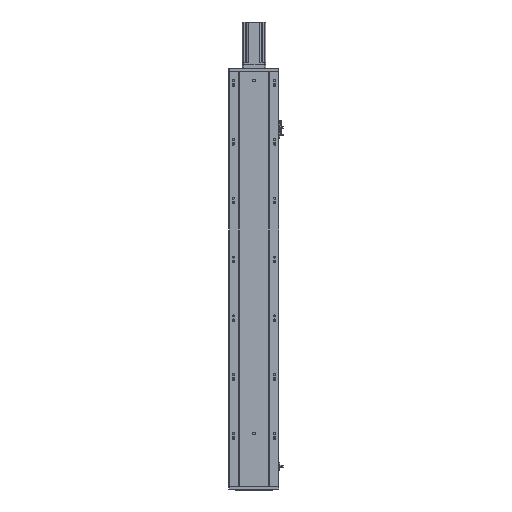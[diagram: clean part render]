
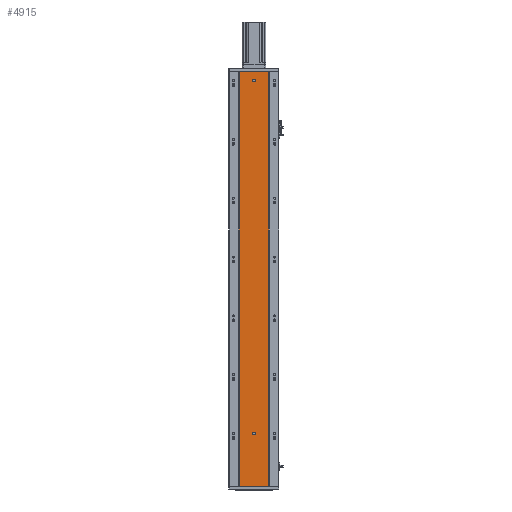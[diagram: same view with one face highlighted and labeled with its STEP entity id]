
A CAD part, front view. The second image highlights one B-rep face of the part: STEP entity #4915.
In plain terms, the highlighted planar face has unit normal (0, -1, 0).
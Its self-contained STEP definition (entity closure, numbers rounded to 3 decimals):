
#1491 = EDGE_LOOP ( 'NONE', ( #30294, #61104, #56211, #23470 ) ) ;
#2358 = CARTESIAN_POINT ( 'NONE',  ( 86.97, 79.476, 1410. ) ) ;
#3170 = CARTESIAN_POINT ( 'NONE',  ( 185.97, 79.476, 940. ) ) ;
#3449 = CARTESIAN_POINT ( 'NONE',  ( 185.97, 79.476, 0. ) ) ;
#3566 = DIRECTION ( 'NONE',  ( 0., 0., -1. ) ) ;
#4915 = ADVANCED_FACE ( 'NONE', ( #37954, #42282, #43208 ), #68679, .F. ) ;
#5900 = DIRECTION ( 'NONE',  ( 0., 0., -1. ) ) ;
#6257 = AXIS2_PLACEMENT_3D ( 'NONE', #9895, #15511, #3566 ) ;
#6622 = ORIENTED_EDGE ( 'NONE', *, *, #6762, .F. ) ;
#6762 = EDGE_CURVE ( 'NONE', #32205, #35933, #11453, .T. ) ;
#7969 = DIRECTION ( 'NONE',  ( 0., -1., 0. ) ) ;
#9002 = CARTESIAN_POINT ( 'NONE',  ( 185.97, 79.476, 0. ) ) ;
#9895 = CARTESIAN_POINT ( 'NONE',  ( 136.47, 79.476, 180. ) ) ;
#10873 = ORIENTED_EDGE ( 'NONE', *, *, #55780, .F. ) ;
#11453 = CIRCLE ( 'NONE', #11995, 4. ) ;
#11995 = AXIS2_PLACEMENT_3D ( 'NONE', #22204, #7969, #63220 ) ;
#12200 = CARTESIAN_POINT ( 'NONE',  ( 0., 79.476, 1410. ) ) ;
#12285 = AXIS2_PLACEMENT_3D ( 'NONE', #17175, #39685, #5900 ) ;
#13099 = CARTESIAN_POINT ( 'NONE',  ( 86.97, 79.476, 940. ) ) ;
#15511 = DIRECTION ( 'NONE',  ( 0., -1., 0. ) ) ;
#16515 = LINE ( 'NONE', #53226, #52361 ) ;
#17175 = CARTESIAN_POINT ( 'NONE',  ( 136.47, 79.476, 1380. ) ) ;
#18789 = EDGE_CURVE ( 'NONE', #66357, #30749, #23784, .T. ) ;
#19791 = VERTEX_POINT ( 'NONE', #67027 ) ;
#22204 = CARTESIAN_POINT ( 'NONE',  ( 136.47, 79.476, 1380. ) ) ;
#22939 = EDGE_LOOP ( 'NONE', ( #6622, #10873 ) ) ;
#22972 = EDGE_LOOP ( 'NONE', ( #61878, #65589 ) ) ;
#23470 = ORIENTED_EDGE ( 'NONE', *, *, #18789, .T. ) ;
#23784 = B_SPLINE_CURVE_WITH_KNOTS ( 'NONE', 3,
 ( #2358, #13099, #35362, #69807 ),
 .UNSPECIFIED., .F., .F.,
 ( 4, 4 ),
 ( 0., 1. ),
 .UNSPECIFIED. ) ;
#24857 = VECTOR ( 'NONE', #60654, 1000. ) ;
#24907 = DIRECTION ( 'NONE',  ( 1., 0., 0. ) ) ;
#26768 = DIRECTION ( 'NONE',  ( 0., -1., 0. ) ) ;
#30294 = ORIENTED_EDGE ( 'NONE', *, *, #47032, .T. ) ;
#30749 = VERTEX_POINT ( 'NONE', #50362 ) ;
#31590 = AXIS2_PLACEMENT_3D ( 'NONE', #12200, #56935, #67714 ) ;
#32205 = VERTEX_POINT ( 'NONE', #66024 ) ;
#32773 = CIRCLE ( 'NONE', #6257, 4. ) ;
#33312 = VERTEX_POINT ( 'NONE', #3449 ) ;
#35362 = CARTESIAN_POINT ( 'NONE',  ( 86.97, 79.476, 470. ) ) ;
#35933 = VERTEX_POINT ( 'NONE', #67553 ) ;
#37954 = FACE_BOUND ( 'NONE', #22939, .T. ) ;
#39685 = DIRECTION ( 'NONE',  ( 0., -1., 0. ) ) ;
#39754 = EDGE_CURVE ( 'NONE', #66357, #55190, #16515, .T. ) ;
#41574 = CARTESIAN_POINT ( 'NONE',  ( 185.97, 79.476, 470. ) ) ;
#41585 = B_SPLINE_CURVE_WITH_KNOTS ( 'NONE', 3,
 ( #58409, #3170, #41574, #9002 ),
 .UNSPECIFIED., .F., .F.,
 ( 4, 4 ),
 ( 0., 1. ),
 .UNSPECIFIED. ) ;
#42226 = CARTESIAN_POINT ( 'NONE',  ( 86.97, 79.476, 1410. ) ) ;
#42282 = FACE_BOUND ( 'NONE', #22972, .T. ) ;
#43208 = FACE_OUTER_BOUND ( 'NONE', #1491, .T. ) ;
#43795 = CARTESIAN_POINT ( 'NONE',  ( 0., 79.476, 0. ) ) ;
#44969 = CIRCLE ( 'NONE', #12285, 4. ) ;
#45866 = CARTESIAN_POINT ( 'NONE',  ( 136.47, 79.476, 176. ) ) ;
#46585 = VERTEX_POINT ( 'NONE', #45866 ) ;
#47032 = EDGE_CURVE ( 'NONE', #30749, #33312, #71215, .T. ) ;
#48194 = EDGE_CURVE ( 'NONE', #19791, #46585, #48286, .T. ) ;
#48286 = CIRCLE ( 'NONE', #58782, 4. ) ;
#49110 = EDGE_CURVE ( 'NONE', #55190, #33312, #41585, .T. ) ;
#50362 = CARTESIAN_POINT ( 'NONE',  ( 86.97, 79.476, 0. ) ) ;
#52361 = VECTOR ( 'NONE', #24907, 1000. ) ;
#53226 = CARTESIAN_POINT ( 'NONE',  ( 0., 79.476, 1410. ) ) ;
#55115 = DIRECTION ( 'NONE',  ( 0., 0., -1. ) ) ;
#55190 = VERTEX_POINT ( 'NONE', #66657 ) ;
#55780 = EDGE_CURVE ( 'NONE', #35933, #32205, #44969, .T. ) ;
#56211 = ORIENTED_EDGE ( 'NONE', *, *, #39754, .F. ) ;
#56935 = DIRECTION ( 'NONE',  ( 0., 1., 0. ) ) ;
#58409 = CARTESIAN_POINT ( 'NONE',  ( 185.97, 79.476, 1410. ) ) ;
#58782 = AXIS2_PLACEMENT_3D ( 'NONE', #60481, #26768, #55115 ) ;
#60481 = CARTESIAN_POINT ( 'NONE',  ( 136.47, 79.476, 180. ) ) ;
#60654 = DIRECTION ( 'NONE',  ( 1., 0., 0. ) ) ;
#61104 = ORIENTED_EDGE ( 'NONE', *, *, #49110, .F. ) ;
#61878 = ORIENTED_EDGE ( 'NONE', *, *, #64988, .F. ) ;
#63220 = DIRECTION ( 'NONE',  ( 0., 0., -1. ) ) ;
#64988 = EDGE_CURVE ( 'NONE', #46585, #19791, #32773, .T. ) ;
#65589 = ORIENTED_EDGE ( 'NONE', *, *, #48194, .F. ) ;
#66024 = CARTESIAN_POINT ( 'NONE',  ( 136.47, 79.476, 1376. ) ) ;
#66357 = VERTEX_POINT ( 'NONE', #42226 ) ;
#66657 = CARTESIAN_POINT ( 'NONE',  ( 185.97, 79.476, 1410. ) ) ;
#67027 = CARTESIAN_POINT ( 'NONE',  ( 136.47, 79.476, 184. ) ) ;
#67553 = CARTESIAN_POINT ( 'NONE',  ( 136.47, 79.476, 1384. ) ) ;
#67714 = DIRECTION ( 'NONE',  ( 0., 0., 1. ) ) ;
#68679 = PLANE ( 'NONE',  #31590 ) ;
#69807 = CARTESIAN_POINT ( 'NONE',  ( 86.97, 79.476, 0. ) ) ;
#71215 = LINE ( 'NONE', #43795, #24857 ) ;
